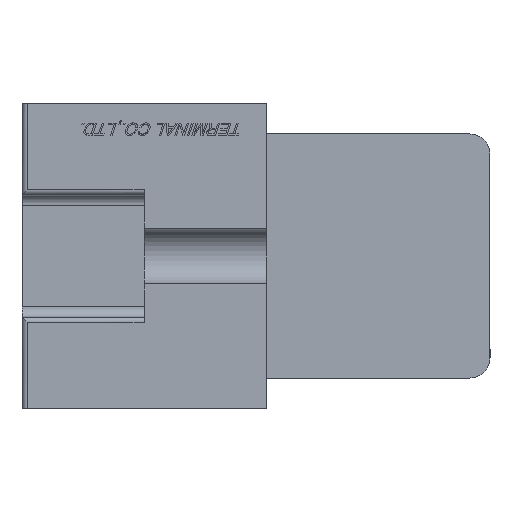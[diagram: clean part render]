
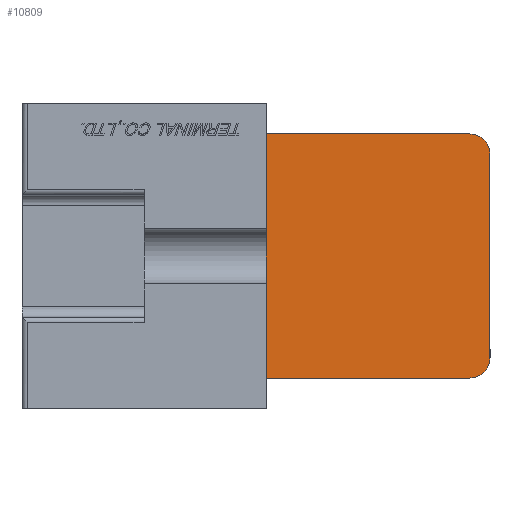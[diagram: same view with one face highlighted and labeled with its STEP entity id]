
A CAD part, left-side view. The second image highlights one B-rep face of the part: STEP entity #10809.
In plain terms, the highlighted planar face has unit normal (-1, 0, 0).
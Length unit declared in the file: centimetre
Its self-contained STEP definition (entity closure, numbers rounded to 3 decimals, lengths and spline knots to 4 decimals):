
#257=CIRCLE('',#19724,0.2);
#259=CIRCLE('',#19728,0.2);
#1380=VERTEX_POINT('',#15651);
#1381=VERTEX_POINT('',#15653);
#1392=VERTEX_POINT('',#15744);
#1393=VERTEX_POINT('',#15748);
#1438=VERTEX_POINT('',#15983);
#1439=VERTEX_POINT('',#15985);
#2580=VECTOR('',#12183,1.);
#2624=VECTOR('',#12324,1.);
#2625=VECTOR('',#12325,1.);
#2626=VECTOR('',#12326,1.);
#3497=LINE('',#15743,#2580);
#3541=LINE('',#15982,#2624);
#3542=LINE('',#15984,#2625);
#3543=LINE('',#15986,#2626);
#4515=EDGE_CURVE('',#1380,#1381,#257,.T.);
#4528=EDGE_CURVE('',#1392,#1381,#3497,.T.);
#4530=EDGE_CURVE('',#1392,#1393,#259,.T.);
#4606=EDGE_CURVE('',#1438,#1380,#3541,.T.);
#4607=EDGE_CURVE('',#1439,#1438,#3542,.T.);
#4608=EDGE_CURVE('',#1439,#1393,#3543,.T.);
#6837=ORIENTED_EDGE('',*,*,#4515,.F.);
#6838=ORIENTED_EDGE('',*,*,#4606,.F.);
#6839=ORIENTED_EDGE('',*,*,#4607,.F.);
#6840=ORIENTED_EDGE('',*,*,#4608,.T.);
#6841=ORIENTED_EDGE('',*,*,#4530,.F.);
#6842=ORIENTED_EDGE('',*,*,#4528,.T.);
#9227=EDGE_LOOP('',(#6837,#6838,#6839,#6840,#6841,#6842));
#10030=FACE_BOUND('',#9227,.T.);
#10809=ADVANCED_FACE('',(#10030),#11401,.T.);
#11401=PLANE('',#19783);
#12170=DIRECTION('',(1.,0.,0.));
#12171=DIRECTION('',(0.,-0.141,0.141));
#12183=DIRECTION('',(0.,0.,1.));
#12187=DIRECTION('',(1.,0.,0.));
#12188=DIRECTION('',(0.,-0.141,-0.141));
#12323=DIRECTION('',(-1.,0.,0.));
#12324=DIRECTION('',(0.,-1.,0.));
#12325=DIRECTION('',(0.,0.,1.));
#12326=DIRECTION('',(0.,-1.,0.));
#15651=CARTESIAN_POINT('',(-4.15,-0.695,1.2));
#15652=CARTESIAN_POINT('',(-4.15,-0.695,1.));
#15653=CARTESIAN_POINT('',(-4.15,-0.895,1.));
#15743=CARTESIAN_POINT('',(-4.15,-0.895,-1.2));
#15744=CARTESIAN_POINT('',(-4.15,-0.895,-1.));
#15747=CARTESIAN_POINT('',(-4.15,-0.695,-1.));
#15748=CARTESIAN_POINT('',(-4.15,-0.695,-1.2));
#15981=CARTESIAN_POINT('',(-4.15,1.305,0.));
#15982=CARTESIAN_POINT('',(-4.15,1.305,1.2));
#15983=CARTESIAN_POINT('',(-4.15,1.305,1.2));
#15984=CARTESIAN_POINT('',(-4.15,1.305,0.));
#15985=CARTESIAN_POINT('',(-4.15,1.305,-1.2));
#15986=CARTESIAN_POINT('',(-4.15,1.305,-1.2));
#19724=AXIS2_PLACEMENT_3D('',#15652,#12170,#12171);
#19728=AXIS2_PLACEMENT_3D('',#15747,#12187,#12188);
#19783=AXIS2_PLACEMENT_3D('',#15981,#12323,$);
